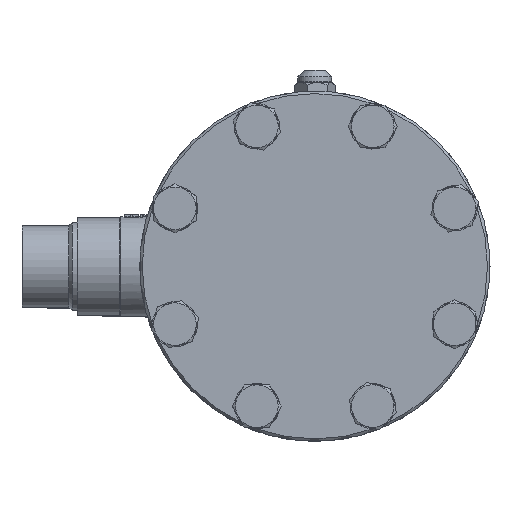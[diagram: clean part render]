
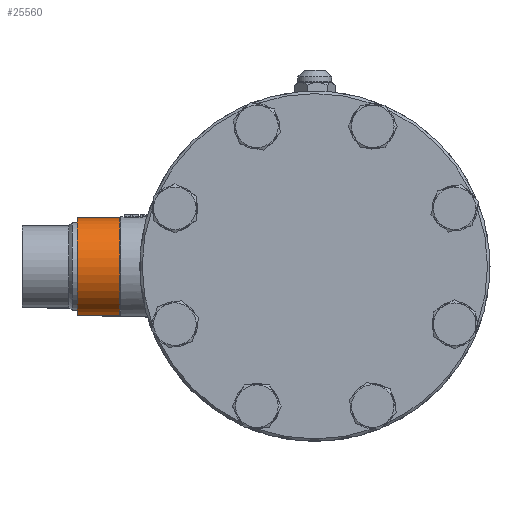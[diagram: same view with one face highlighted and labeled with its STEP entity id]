
A CAD part, top view. The second image highlights one B-rep face of the part: STEP entity #25560.
In plain terms, the highlighted cylindrical face has radius 19.5 mm (diameter 39 mm), a full revolution.
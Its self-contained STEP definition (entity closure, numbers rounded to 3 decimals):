
#1811=FACE_BOUND('',#8112,.T.);
#6472=FACE_OUTER_BOUND('',#8111,.T.);
#8111=EDGE_LOOP('',(#19177));
#8112=EDGE_LOOP('',(#19178));
#9814=CIRCLE('',#27554,19.5);
#9816=CIRCLE('',#27557,19.5);
#11843=VERTEX_POINT('',#42555);
#11845=VERTEX_POINT('',#42560);
#14679=EDGE_CURVE('',#11843,#11843,#9814,.T.);
#14681=EDGE_CURVE('',#11845,#11845,#9816,.T.);
#19177=ORIENTED_EDGE('',*,*,#14681,.F.);
#19178=ORIENTED_EDGE('',*,*,#14679,.T.);
#25194=CYLINDRICAL_SURFACE('',#27556,19.5);
#25560=ADVANCED_FACE('',(#6472,#1811),#25194,.T.);
#27554=AXIS2_PLACEMENT_3D('',#42556,#30858,#30859);
#27556=AXIS2_PLACEMENT_3D('',#42559,#30862,#30863);
#27557=AXIS2_PLACEMENT_3D('',#42561,#30864,#30865);
#30858=DIRECTION('center_axis',(-1.,0.,0.));
#30859=DIRECTION('ref_axis',(0.,-1.,0.));
#30862=DIRECTION('center_axis',(-1.,0.,0.));
#30863=DIRECTION('ref_axis',(0.,-1.,0.));
#30864=DIRECTION('center_axis',(-1.,0.,0.));
#30865=DIRECTION('ref_axis',(0.,-1.,0.));
#42555=CARTESIAN_POINT('',(-78.,-19.5,290.));
#42556=CARTESIAN_POINT('Origin',(-78.,0.,
290.));
#42559=CARTESIAN_POINT('Origin',(-86.5,0.,
290.));
#42560=CARTESIAN_POINT('',(-95.,-19.5,290.));
#42561=CARTESIAN_POINT('Origin',(-95.,0.,
290.));
